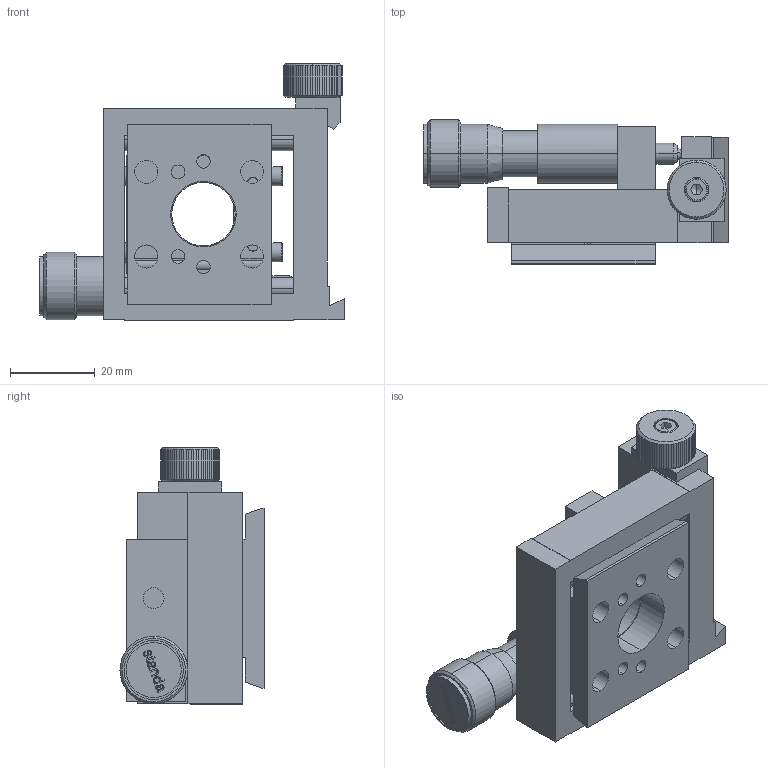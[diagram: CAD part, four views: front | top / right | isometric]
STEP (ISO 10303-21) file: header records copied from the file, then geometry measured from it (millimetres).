
FILE_DESCRIPTION (( 'STEP AP203' ), '1' );
FILE_NAME ('7T8-02.STEP', '2007-10-25T13:31:30', ( 'STANDA' ), ( '' ), 'SwSTEP 2.0', 'SolidWorks 2003240', '' );
FILE_SCHEMA (( 'CONFIG_CONTROL_DESIGN' ));
Length unit declared in the file: millimetre
Products named in the file (1): 7T8-02
Bounding box: 72.01 x 34.1 x 60.7 mm (x, y, z)
Volume: 48432.4 mm3; surface area: 24972.2 mm2
Topology: 1 solids, 23 shells, 660 faces, 1668 edges, 1066 vertices
Faces by surface type: plane 320, cylinder 175, bspline 89, cone 76
Entity records: 21905 total; most frequent: CARTESIAN_POINT 6706, ORIENTED_EDGE 3272, DIRECTION 2852, EDGE_CURVE 1636, VERTEX_POINT 1066, AXIS2_PLACEMENT_3D 1020, VECTOR 812, LINE 812
